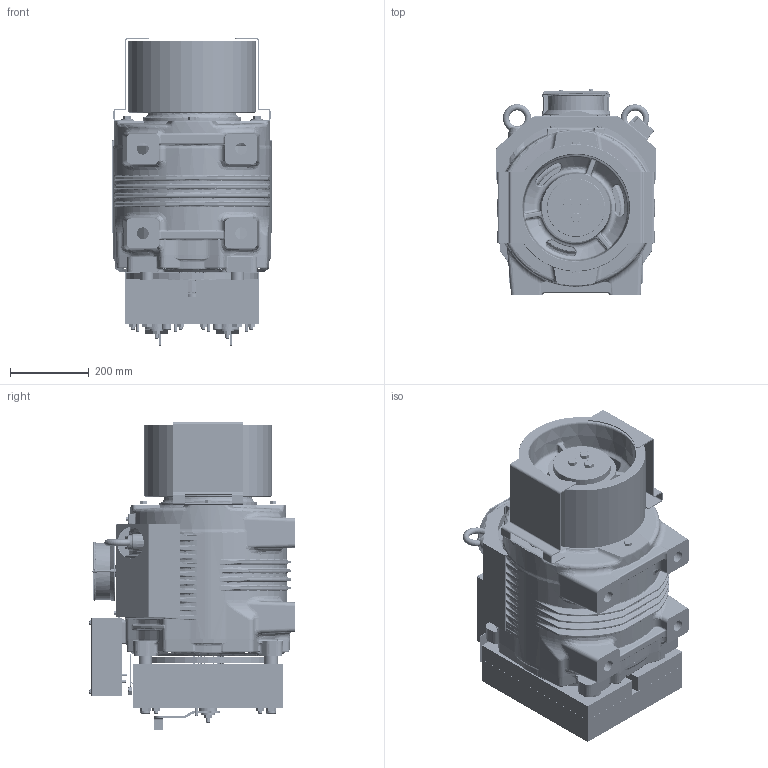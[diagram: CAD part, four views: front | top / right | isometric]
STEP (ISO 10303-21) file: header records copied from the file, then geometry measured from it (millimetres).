
FILE_DESCRIPTION((''),'2;1');
FILE_NAME('00363634_ASM','2020-06-16T',('furlanis'),('Sicor spa'),'CREO PARAMETRIC BY PTC INC, 2017170','CREO PARAMETRIC BY PTC INC, 2017170','');
FILE_SCHEMA(('CONFIG_CONTROL_DESIGN'));
Length unit declared in the file: millimetre
Products named in the file (21): SG62_; _320_182; _320; 00261097; M4_FTT_L; M4_FTT_C; M3_FTT_C; 00261096_ASM; 00008906; 00024268; 00024286_ASM; 00024307; 00259719_M4X60; 00022368; 2080010002; VITI_TC_M4X25_VIT0066; VITI_TC_M3X16_VIT0064; TEM6X12_VIR0184; 00000263; 00268202_ASM; 00363634_ASM
Assembly tree (32 placements, depth 4):
  00363634_ASM
    SG62_
    _320_182
    _320  x2
    00268202_ASM
      00261096_ASM
        00261097
        M4_FTT_L  x2
        M4_FTT_C  x4
        M3_FTT_C  x2
      00024286_ASM
        00008906
        00024268
      00024307
      00259719_M4X60  x2
      00022368
      2080010002
      VITI_TC_M4X25_VIT0066  x2
      VITI_TC_M3X16_VIT0064  x2
      TEM6X12_VIR0184  x4
      00000263
Bounding box: 409.17 x 521.9 x 783.64 mm (x, y, z)
Volume: 8843621.6 mm3; surface area: 5043256.9 mm2
Topology: 28 solids, 207 shells, 5037 faces, 13953 edges, 8911 vertices
Faces by surface type: plane 1411, cylinder 1204, bspline 1163, torus 669, cone 556, sphere 34
Entity records: 253625 total; most frequent: CARTESIAN_POINT 145108, ORIENTED_EDGE 23830, DIRECTION 18961, EDGE_CURVE 13349, VERTEX_POINT 8568, AXIS2_PLACEMENT_3D 7522, B_SPLINE_CURVE_WITH_KNOTS 5604, EDGE_LOOP 4989
